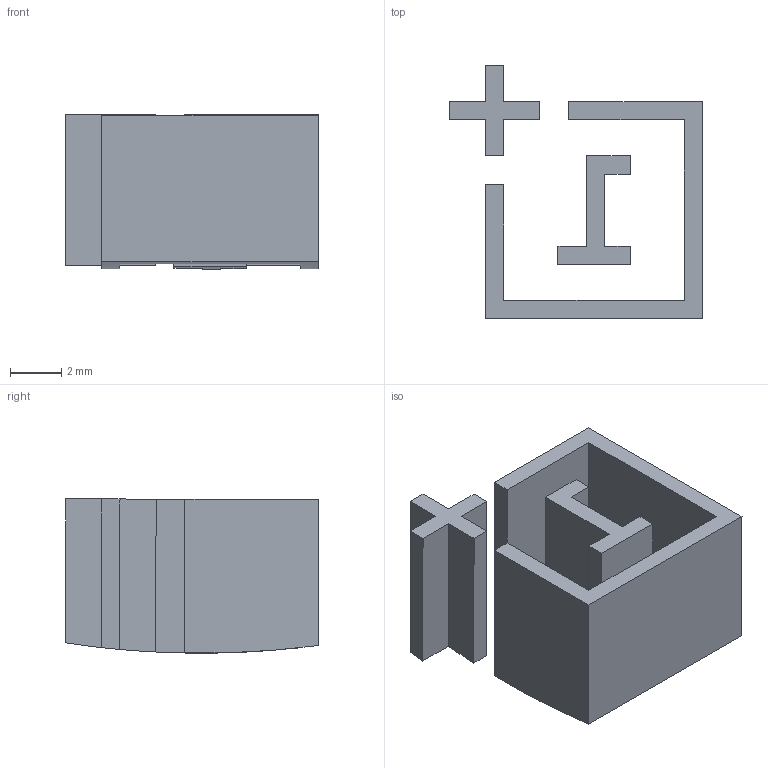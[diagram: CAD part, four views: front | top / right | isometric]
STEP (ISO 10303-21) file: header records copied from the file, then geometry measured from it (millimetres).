
FILE_DESCRIPTION (( 'STEP AP214' ), '1' );
FILE_NAME ('LOGO.STEP', '2015-03-13T18:52:38', ( '' ), ( '' ), 'SwSTEP 2.0', 'SolidWorks 2015', '' );
FILE_SCHEMA (( 'AUTOMOTIVE_DESIGN' ));
Length unit declared in the file: millimetre
Products named in the file (1): LOGO
Bounding box: 9.88 x 9.89 x 6.03 mm (x, y, z)
Volume: 161.7 mm3; surface area: 538.3 mm2
Topology: 3 solids, 3 shells, 38 faces, 96 edges, 64 vertices
Faces by surface type: plane 35, cylinder 3
Entity records: 1188 total; most frequent: CARTESIAN_POINT 199, ORIENTED_EDGE 192, DIRECTION 190, EDGE_CURVE 96, VECTOR 80, LINE 80, VERTEX_POINT 64, AXIS2_PLACEMENT_3D 55
